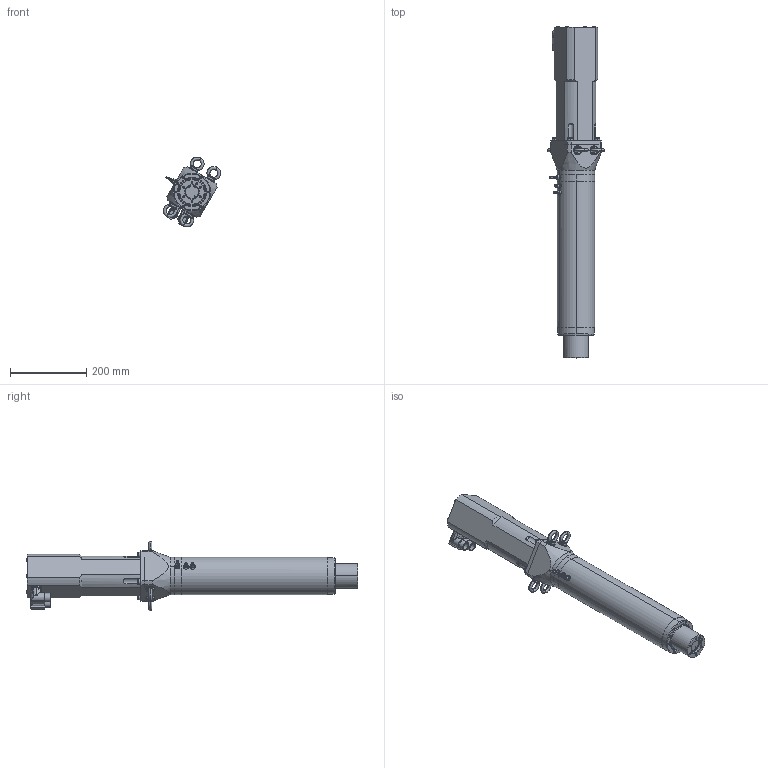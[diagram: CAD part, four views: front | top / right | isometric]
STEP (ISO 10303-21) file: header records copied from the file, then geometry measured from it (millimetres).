
FILE_DESCRIPTION (( 'STEP AP214' ), '1' );
FILE_NAME ('KM RLWIK010D-020-030HG0.STEP', '2023-04-06T07:23:57', ( '' ), ( '' ), 'SwSTEP 2.0', 'SolidWorks 2021', '' );
FILE_SCHEMA (( 'AUTOMOTIVE_DESIGN' ));
Length unit declared in the file: millimetre
Products named in the file (1): KM RLWIK010D-020-030HG0
Bounding box: 150.22 x 873 x 183.96 mm (x, y, z)
Volume: 5659324.8 mm3; surface area: 643036.1 mm2
Topology: 27 solids, 27 shells, 896 faces, 2131 edges, 1279 vertices
Faces by surface type: cylinder 378, plane 249, cone 155, torus 62, bspline 50, sphere 2
Entity records: 40224 total; most frequent: CARTESIAN_POINT 9518, DIRECTION 4505, ORIENTED_EDGE 4078, EDGE_CURVE 2039, AXIS2_PLACEMENT_3D 1841, VERTEX_POINT 1279, EDGE_LOOP 1064, CIRCLE 994
